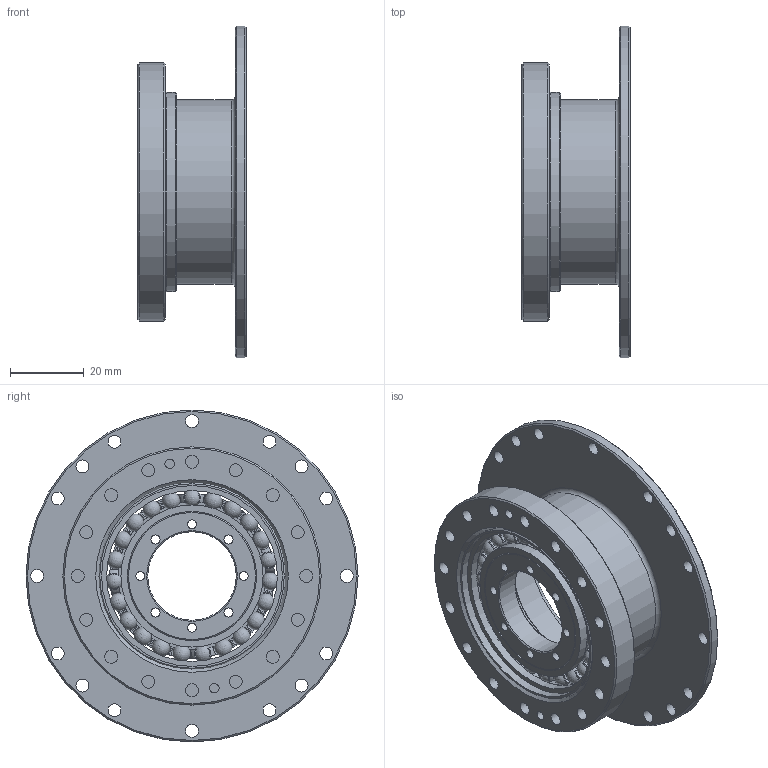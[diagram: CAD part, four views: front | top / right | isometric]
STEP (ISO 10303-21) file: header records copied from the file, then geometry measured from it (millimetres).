
FILE_DESCRIPTION(/* description */ (''),/* implementation_level */ '2;1');
FILE_NAME(/* name */ 'Getriebeset_HTG_51_HS.stp',/* time_stamp */ '2026-03-09T10:58:34+01:00',/* author */ (''),/* organization */ (''),/* preprocessor_version */ 'ST-DEVELOPER v19.4',/* originating_system */ 'SIEMENS PLM Software NX2212.9120',/* authorisation */ '');
FILE_SCHEMA (('AUTOMOTIVE_DESIGN { 1 0 10303 214 3 1 1 1 }'));
Length unit declared in the file: millimetre
Products named in the file (1): Getriebeset_HTG_51_HS
Bounding box: 29.4 x 90 x 90 mm (x, y, z)
Volume: 32971.5 mm3; surface area: 39115 mm2
Topology: 29 solids, 29 shells, 286 faces, 841 edges, 572 vertices
Faces by surface type: cylinder 99, plane 59, torus 46, cone 45, sphere 35, bspline 2
Full cylindrical faces by diameter (mm): 2.5 x8, 2.6 x2, 3.5 x32, 24 x1, 32 x1, 35 x2, 38.5 x3, 43.5 x1, 46.3 x2, 49 x2, 49.9 x1, 50.5 x1, 51.2 x1, 54 x1, 70 x2, 90 x1
Entity records: 11944 total; most frequent: CARTESIAN_POINT 5236, ORIENTED_EDGE 1248, DIRECTION 1242, EDGE_CURVE 624, AXIS2_PLACEMENT_3D 583, VERTEX_POINT 487, EDGE_LOOP 450, FACE_BOUND 313
